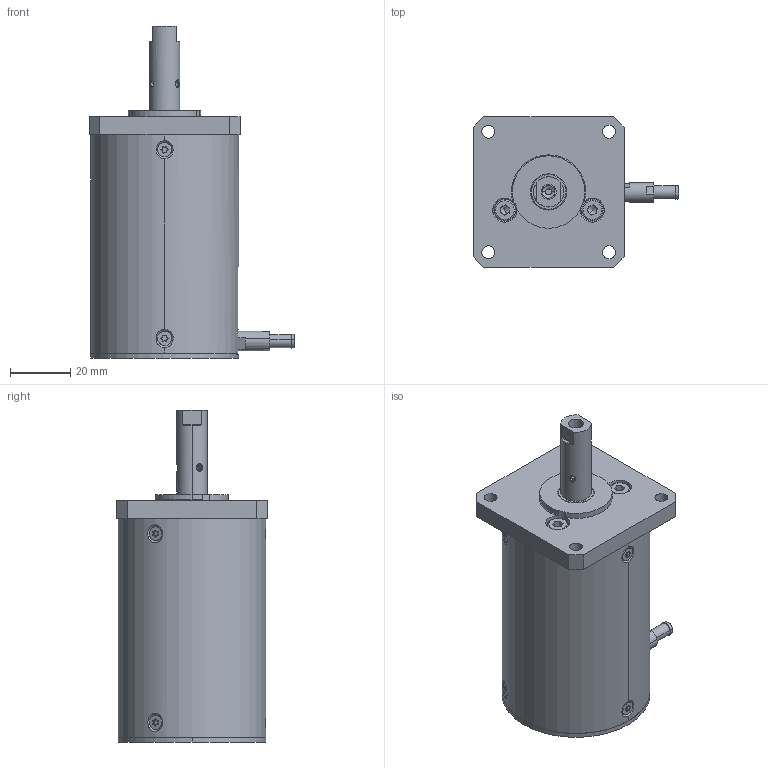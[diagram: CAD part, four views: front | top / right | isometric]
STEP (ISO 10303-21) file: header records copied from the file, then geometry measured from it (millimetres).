
FILE_DESCRIPTION (( 'STEP AP214' ), '1' );
FILE_NAME ('LTC30011-00004-PiezoMotor.STEP', '2017-06-16T12:49:21', ( '' ), ( '' ), 'SwSTEP 2.0', 'SolidWorks 2016', '' );
FILE_SCHEMA (( 'AUTOMOTIVE_DESIGN' ));
Length unit declared in the file: millimetre
Products named in the file (5): LTC30011-00004-Motor-PiezoMotor; LTC30011-00004-PiezoMotor; LTC30011-00004-DriveRod-PiezoMotor
Assembly tree (2 placements, depth 2):
  LTC30011-00004-Motor-PiezoMotor
  LTC30011-00004-PiezoMotor
    LTC30011-00004-Motor-PiezoMotor
    LTC30011-00004-DriveRod-PiezoMotor
  LTC30011-00004-DriveRod-PiezoMotor
Bounding box: 68.15 x 50 x 110 mm (x, y, z)
Volume: 59377.7 mm3; surface area: 40773.5 mm2
Topology: 2 solids, 2 shells, 537 faces, 1338 edges, 848 vertices
Faces by surface type: cylinder 256, plane 159, cone 91, torus 31
Entity records: 21003 total; most frequent: CARTESIAN_POINT 4292, DIRECTION 2961, ORIENTED_EDGE 2664, EDGE_CURVE 1332, AXIS2_PLACEMENT_3D 1187, VERTEX_POINT 846, CIRCLE 644, EDGE_LOOP 608
